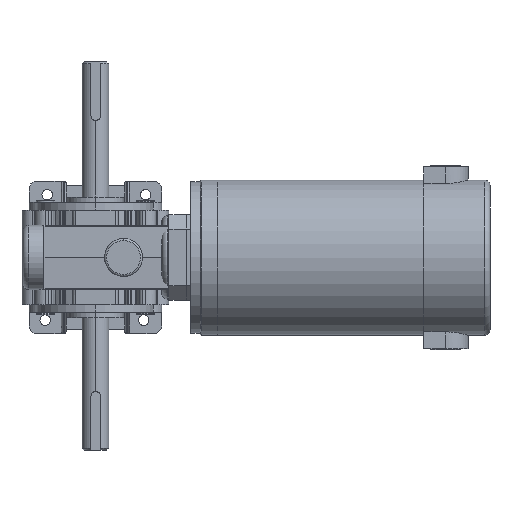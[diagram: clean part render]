
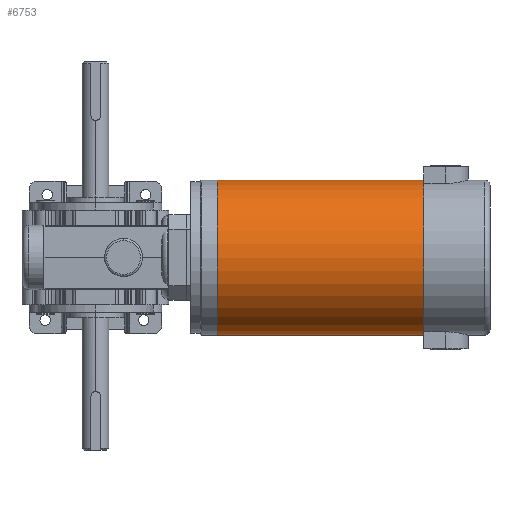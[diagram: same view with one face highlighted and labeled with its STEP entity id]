
A CAD part, left-side view. The second image highlights one B-rep face of the part: STEP entity #6753.
In plain terms, the highlighted cylindrical face has radius 41 mm (diameter 82 mm), a partial arc.
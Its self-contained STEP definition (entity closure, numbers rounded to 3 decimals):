
#1644 = ORIENTED_EDGE ( 'NONE', *, *, #19296, .F. ) ;
#3498 = CARTESIAN_POINT ( 'NONE',  ( 544.765, -216.924, -35. ) ) ;
#4833 = AXIS2_PLACEMENT_3D ( 'NONE', #17125, #18245, #16578 ) ;
#6753 = ADVANCED_FACE ( 'NONE', ( #26363 ), #30127, .T. ) ;
#8233 = CARTESIAN_POINT ( 'NONE',  ( 626.765, -216.924, -35. ) ) ;
#8737 = DIRECTION ( 'NONE',  ( 0., 0., 1. ) ) ;
#9650 = ORIENTED_EDGE ( 'NONE', *, *, #10958, .T. ) ;
#10831 = AXIS2_PLACEMENT_3D ( 'NONE', #16325, #35165, #19025 ) ;
#10958 = EDGE_CURVE ( 'NONE', #27825, #33464, #30716, .T. ) ;
#11106 = LINE ( 'NONE', #13372, #12008 ) ;
#12008 = VECTOR ( 'NONE', #32226, 1000. ) ;
#13372 = CARTESIAN_POINT ( 'NONE',  ( 544.765, -216.924, -144. ) ) ;
#16325 = CARTESIAN_POINT ( 'NONE',  ( 585.765, -216.924, -144. ) ) ;
#16344 = DIRECTION ( 'NONE',  ( 0., 0., -1. ) ) ;
#16578 = DIRECTION ( 'NONE',  ( 1., 0., 0. ) ) ;
#16936 = LINE ( 'NONE', #17204, #30465 ) ;
#17125 = CARTESIAN_POINT ( 'NONE',  ( 585.765, -216.924, -144. ) ) ;
#17204 = CARTESIAN_POINT ( 'NONE',  ( 626.765, -216.924, -144. ) ) ;
#18245 = DIRECTION ( 'NONE',  ( 0., 0., 1. ) ) ;
#19025 = DIRECTION ( 'NONE',  ( -1., 0., 0. ) ) ;
#19296 = EDGE_CURVE ( 'NONE', #22092, #33464, #16936, .T. ) ;
#20823 = EDGE_CURVE ( 'NONE', #24538, #27825, #11106, .T. ) ;
#21369 = CARTESIAN_POINT ( 'NONE',  ( 626.765, -216.924, -144. ) ) ;
#22092 = VERTEX_POINT ( 'NONE', #21369 ) ;
#22345 = EDGE_LOOP ( 'NONE', ( #31809, #28081, #9650, #1644 ) ) ;
#23690 = CARTESIAN_POINT ( 'NONE',  ( 544.765, -216.924, -144. ) ) ;
#24538 = VERTEX_POINT ( 'NONE', #23690 ) ;
#24781 = CIRCLE ( 'NONE', #10831, 41. ) ;
#26363 = FACE_OUTER_BOUND ( 'NONE', #22345, .T. ) ;
#27825 = VERTEX_POINT ( 'NONE', #3498 ) ;
#28081 = ORIENTED_EDGE ( 'NONE', *, *, #20823, .T. ) ;
#29870 = EDGE_CURVE ( 'NONE', #24538, #22092, #24781, .T. ) ;
#30127 = CYLINDRICAL_SURFACE ( 'NONE', #4833, 41. ) ;
#30465 = VECTOR ( 'NONE', #8737, 1000. ) ;
#30716 = CIRCLE ( 'NONE', #35724, 41. ) ;
#31809 = ORIENTED_EDGE ( 'NONE', *, *, #29870, .F. ) ;
#32226 = DIRECTION ( 'NONE',  ( 0., 0., 1. ) ) ;
#32479 = CARTESIAN_POINT ( 'NONE',  ( 585.765, -216.924, -35. ) ) ;
#33464 = VERTEX_POINT ( 'NONE', #8233 ) ;
#35165 = DIRECTION ( 'NONE',  ( 0., 0., -1. ) ) ;
#35179 = DIRECTION ( 'NONE',  ( -1., 0., 0. ) ) ;
#35724 = AXIS2_PLACEMENT_3D ( 'NONE', #32479, #16344, #35179 ) ;
